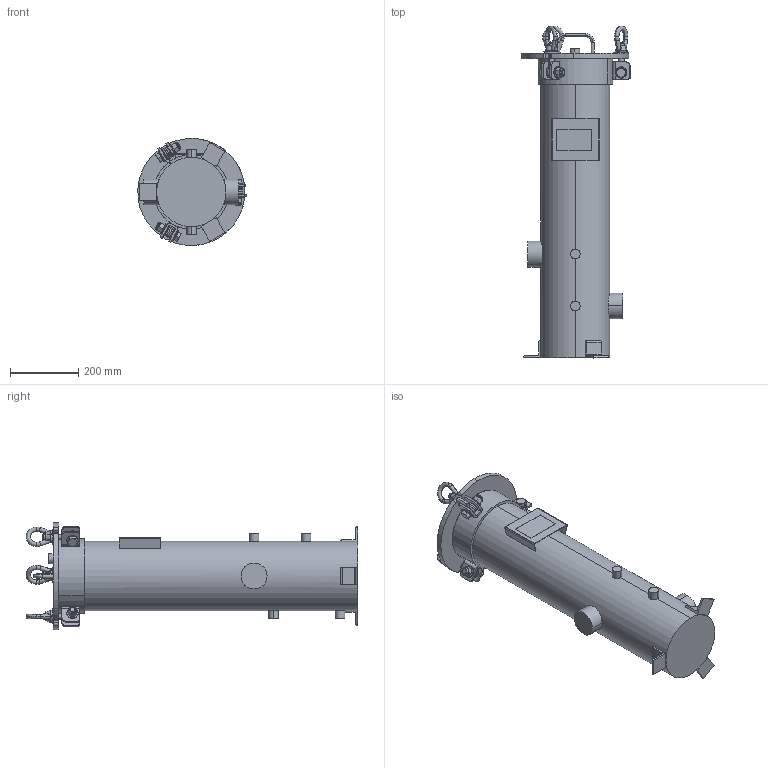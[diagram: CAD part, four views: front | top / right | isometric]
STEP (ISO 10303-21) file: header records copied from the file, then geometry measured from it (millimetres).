
FILE_DESCRIPTION (( 'STEP AP203' ), '1' );
FILE_NAME ('001021-00060.step', '2025-12-09T13:51:17', ( '' ), ( '' ), 'SwSTEP 2.0', 'SolidWorks 2023', '' );
FILE_SCHEMA (( 'CONFIG_CONTROL_DESIGN' ));
Length unit declared in the file: inch
Products named in the file (1): 001021-00060
Bounding box: 317.62 x 973.91 x 314.21 mm (x, y, z)
Volume: 31412534.1 mm3; surface area: 1100211.7 mm2
Topology: 11 solids, 11 shells, 577 faces, 1327 edges, 798 vertices
Faces by surface type: plane 208, cylinder 174, cone 93, torus 51, bspline 51
Entity records: 19571 total; most frequent: CARTESIAN_POINT 6767, DIRECTION 2712, ORIENTED_EDGE 2630, EDGE_CURVE 1315, AXIS2_PLACEMENT_3D 1117, VERTEX_POINT 798, EDGE_LOOP 629, CIRCLE 590
